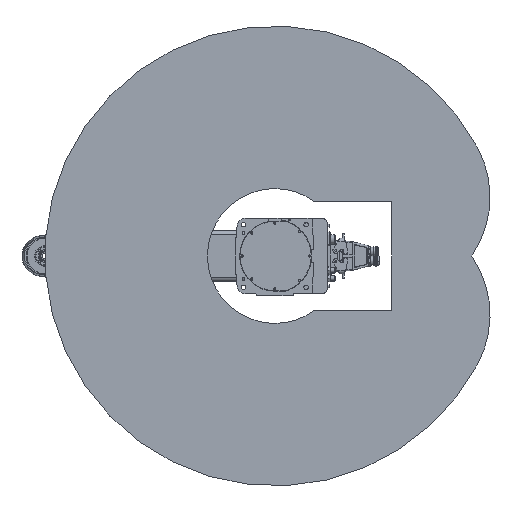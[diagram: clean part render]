
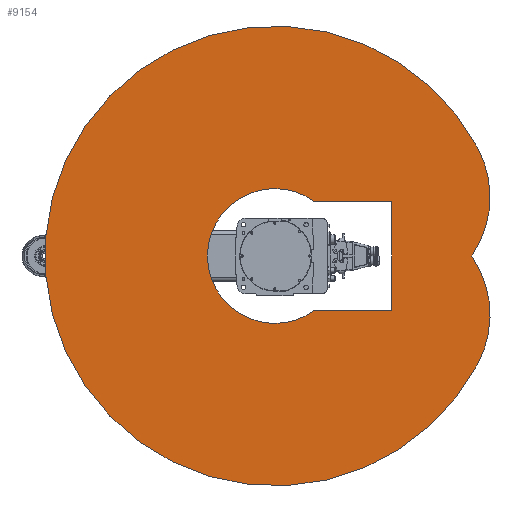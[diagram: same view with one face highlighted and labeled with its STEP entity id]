
A CAD part, front view. The second image highlights one B-rep face of the part: STEP entity #9154.
In plain terms, the highlighted planar face has unit normal (0, -1, 0).
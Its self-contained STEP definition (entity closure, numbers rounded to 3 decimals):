
#9154 = ADVANCED_FACE( '', ( #19753, #19754 ), #19755, .F. );
#19753 = FACE_OUTER_BOUND( '', #31704, .T. );
#19754 = FACE_BOUND( '', #31705, .T. );
#19755 = PLANE( '', #31706 );
#31704 = EDGE_LOOP( '', ( #56062, #56063, #56064 ) );
#31705 = EDGE_LOOP( '', ( #56065, #56066, #56067, #56068 ) );
#31706 = AXIS2_PLACEMENT_3D( '', #56069, #56070, #56071 );
#56062 = ORIENTED_EDGE( '', *, *, #69259, .F. );
#56063 = ORIENTED_EDGE( '', *, *, #69260, .F. );
#56064 = ORIENTED_EDGE( '', *, *, #69261, .F. );
#56065 = ORIENTED_EDGE( '', *, *, #65150, .T. );
#56066 = ORIENTED_EDGE( '', *, *, #66630, .T. );
#56067 = ORIENTED_EDGE( '', *, *, #64903, .T. );
#56068 = ORIENTED_EDGE( '', *, *, #65554, .T. );
#56069 = CARTESIAN_POINT( '', ( 70.421, 0., 132.442 ) );
#56070 = DIRECTION( '', ( 0., 1., 0. ) );
#56071 = DIRECTION( '', ( 0., 0., 1. ) );
#64903 = EDGE_CURVE( '', #78218, #78219, #78220, .T. );
#65150 = EDGE_CURVE( '', #78595, #78593, #78596, .T. );
#65554 = EDGE_CURVE( '', #78219, #78595, #79182, .T. );
#66630 = EDGE_CURVE( '', #78593, #78218, #80718, .T. );
#69259 = EDGE_CURVE( '', #84030, #84031, #84032, .T. );
#69260 = EDGE_CURVE( '', #84033, #84030, #84034, .T. );
#69261 = EDGE_CURVE( '', #84031, #84033, #84035, .T. );
#78218 = VERTEX_POINT( '', #99343 );
#78219 = VERTEX_POINT( '', #99344 );
#78220 = LINE( '', #99345, #99346 );
#78593 = VERTEX_POINT( '', #99880 );
#78595 = VERTEX_POINT( '', #99883 );
#78596 = LINE( '', #99884, #99885 );
#79182 = CIRCLE( '', #100943, 161.22 );
#80718 = LINE( '', #103527, #103528 );
#84030 = VERTEX_POINT( '', #108820 );
#84031 = VERTEX_POINT( '', #108821 );
#84032 = CIRCLE( '', #108822, 250. );
#84033 = VERTEX_POINT( '', #108823 );
#84034 = CIRCLE( '', #108824, 250. );
#84035 = CIRCLE( '', #108825, 550. );
#99343 = CARTESIAN_POINT( '', ( 130., 0., 280. ) );
#99344 = CARTESIAN_POINT( '', ( 130., 0., 95.351 ) );
#99345 = CARTESIAN_POINT( '', ( 130., 0., 280. ) );
#99346 = VECTOR( '', #116086, 1000. );
#99880 = CARTESIAN_POINT( '', ( -130., 0., 280. ) );
#99883 = CARTESIAN_POINT( '', ( -130., 0., 95.351 ) );
#99884 = CARTESIAN_POINT( '', ( -130., 0., 0. ) );
#99885 = VECTOR( '', #116393, 1000. );
#100943 = AXIS2_PLACEMENT_3D( '', #116898, #116899, #116900 );
#103527 = CARTESIAN_POINT( '', ( -130., 0., 280. ) );
#103528 = VECTOR( '', #118121, 1000. );
#108820 = CARTESIAN_POINT( '', ( 0., 0., 471.436 ) );
#108821 = CARTESIAN_POINT( '', ( 258.209, 0., 485.621 ) );
#108822 = AXIS2_PLACEMENT_3D( '', #120674, #120675, #120676 );
#108823 = CARTESIAN_POINT( '', ( -258.209, 0., 485.621 ) );
#108824 = AXIS2_PLACEMENT_3D( '', #120677, #120678, #120679 );
#108825 = AXIS2_PLACEMENT_3D( '', #120680, #120681, #120682 );
#116086 = DIRECTION( '', ( 0., 0., -1. ) );
#116393 = DIRECTION( '', ( 0., 0., 1. ) );
#116898 = CARTESIAN_POINT( '', ( 0., 0., 0. ) );
#116899 = DIRECTION( '', ( 0., 1., 0. ) );
#116900 = DIRECTION( '', ( 1., 0., 0. ) );
#118121 = DIRECTION( '', ( 1., 0., 0. ) );
#120674 = CARTESIAN_POINT( '', ( 140.841, 0., 264.884 ) );
#120675 = DIRECTION( '', ( 0., 1., 0. ) );
#120676 = DIRECTION( '', ( 1., 0., 0. ) );
#120677 = CARTESIAN_POINT( '', ( -140.841, 0., 264.884 ) );
#120678 = DIRECTION( '', ( 0., 1., 0. ) );
#120679 = DIRECTION( '', ( 1., 0., 0. ) );
#120680 = CARTESIAN_POINT( '', ( 0., 0., 0. ) );
#120681 = DIRECTION( '', ( 0., 1., 0. ) );
#120682 = DIRECTION( '', ( 1., 0., 0. ) );
